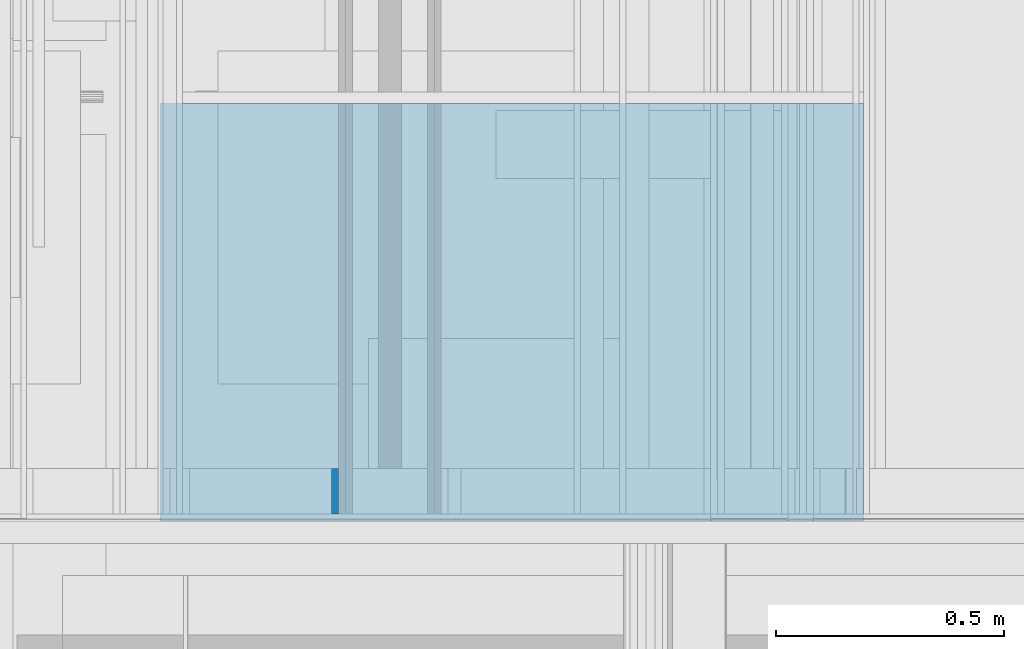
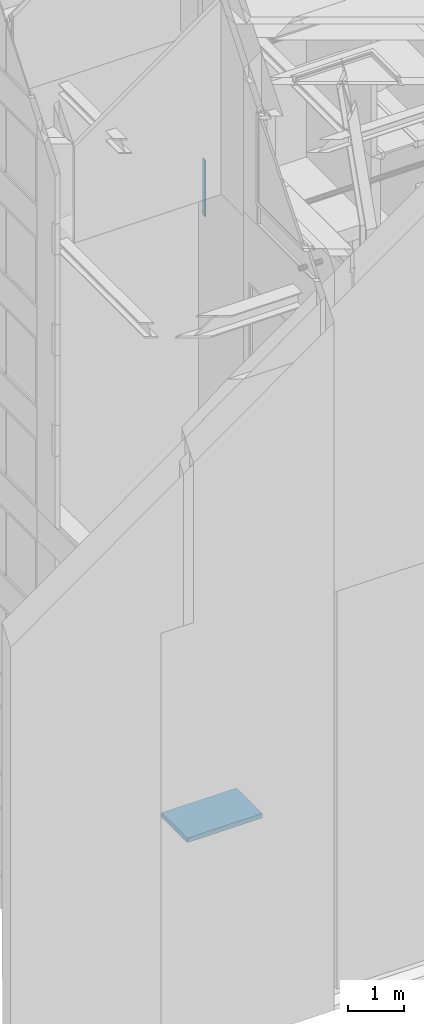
# One storey, part 11 of 583: 2 walls.
"""IFC2X3 building model written with IfcOpenShell, lengths in metres."""

from ifc_helpers import new_model, entity, si_unit, converted_unit, derived_unit, money_unit, direction, frame, frame_2d, origin_with_axes, place, context, subcontext, project, spatial, rectangle, extrude, material, type_object, element, save


model = new_model("IFC2X3")

# Units and contexts
model_context = context("Model", 3, precision=1e-05, world=origin_with_axes(), true_north=direction((0.0, 1.0)))
body_context = subcontext(model_context, "Body", "Model", "MODEL_VIEW", scale=1.0)
ifc_project = project(units=[si_unit("LENGTHUNIT", "METRE"), si_unit("AREAUNIT", "SQUARE_METRE"), si_unit("VOLUMEUNIT", "CUBIC_METRE"), si_unit("ABSORBEDDOSEUNIT", "GRAY"), si_unit("AMOUNTOFSUBSTANCEUNIT", "MOLE"), si_unit("DOSEEQUIVALENTUNIT", "SIEVERT"), si_unit("ELECTRICCAPACITANCEUNIT", "FARAD"), si_unit("ELECTRICCHARGEUNIT", "COULOMB"), si_unit("ELECTRICCONDUCTANCEUNIT", "SIEMENS"), si_unit("ELECTRICCURRENTUNIT", "AMPERE"), si_unit("ELECTRICRESISTANCEUNIT", "OHM"), si_unit("ELECTRICVOLTAGEUNIT", "VOLT"), si_unit("ENERGYUNIT", "JOULE"), si_unit("FORCEUNIT", "NEWTON"), si_unit("FREQUENCYUNIT", "HERTZ"), si_unit("ILLUMINANCEUNIT", "LUX"), si_unit("INDUCTANCEUNIT", "HENRY"), si_unit("LUMINOUSFLUXUNIT", "LUMEN"), si_unit("LUMINOUSINTENSITYUNIT", "CANDELA"), si_unit("MAGNETICFLUXDENSITYUNIT", "TESLA"), si_unit("MAGNETICFLUXUNIT", "WEBER"), si_unit("MASSUNIT", "GRAM"), converted_unit("PLANEANGLEUNIT", "degree", entity("IfcReal", 0.0174532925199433), si_unit("PLANEANGLEUNIT", "RADIAN"), dimensions=[0, 0, 0, 0, 0, 0, 0]), si_unit("POWERUNIT", "WATT"), si_unit("PRESSUREUNIT", "PASCAL"), si_unit("RADIOACTIVITYUNIT", "BECQUEREL"), si_unit("SOLIDANGLEUNIT", "STERADIAN"), si_unit("THERMODYNAMICTEMPERATUREUNIT", "KELVIN"), si_unit("TIMEUNIT", "SECOND"), derived_unit("ACCELERATIONUNIT", [(si_unit("LENGTHUNIT", "METRE"), 1), (si_unit("TIMEUNIT", "SECOND"), -2)]), derived_unit("ANGULARVELOCITYUNIT", [(converted_unit("PLANEANGLEUNIT", "degree", entity("IfcReal", 0.0174532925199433), si_unit("PLANEANGLEUNIT", "RADIAN"), dimensions=[0, 0, 0, 0, 0, 0, 0]), 1), (si_unit("TIMEUNIT", "SECOND"), -1)]), derived_unit("CURVATUREUNIT", [(converted_unit("PLANEANGLEUNIT", "degree", entity("IfcReal", 0.0174532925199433), si_unit("PLANEANGLEUNIT", "RADIAN"), dimensions=[0, 0, 0, 0, 0, 0, 0]), 1), (si_unit("LENGTHUNIT", "METRE"), -1)]), derived_unit("DYNAMICVISCOSITYUNIT", [(si_unit("PRESSUREUNIT", "PASCAL"), 1), (si_unit("TIMEUNIT", "SECOND"), 1)]), derived_unit("HEATFLUXDENSITYUNIT", [(si_unit("POWERUNIT", "WATT"), 1), (si_unit("LENGTHUNIT", "METRE"), -2)]), derived_unit("HEATINGVALUEUNIT", [(si_unit("ENERGYUNIT", "JOULE"), 1), (si_unit("MASSUNIT", "GRAM"), -1)]), derived_unit("INTEGERCOUNTRATEUNIT", [(si_unit("TIMEUNIT", "SECOND"), -1)]), derived_unit("IONCONCENTRATIONUNIT", [(si_unit("MASSUNIT", "GRAM"), 1), (si_unit("VOLUMEUNIT", "CUBIC_METRE"), -1)]), derived_unit("ISOTHERMALMOISTURECAPACITYUNIT", [(si_unit("VOLUMEUNIT", "CUBIC_METRE"), 1), (si_unit("MASSUNIT", "GRAM"), -1)]), derived_unit("KINEMATICVISCOSITYUNIT", [(si_unit("AREAUNIT", "SQUARE_METRE"), 1), (si_unit("TIMEUNIT", "SECOND"), -1)]), derived_unit("LINEARFORCEUNIT", [(si_unit("FORCEUNIT", "NEWTON"), 1), (si_unit("LENGTHUNIT", "METRE"), -1)]), derived_unit("LINEARMOMENTUNIT", [(si_unit("FORCEUNIT", "NEWTON"), 1), (si_unit("LENGTHUNIT", "METRE"), -1)]), derived_unit("LINEARSTIFFNESSUNIT", [(si_unit("FORCEUNIT", "NEWTON"), 1), (si_unit("LENGTHUNIT", "METRE"), -1)]), derived_unit("LINEARVELOCITYUNIT", [(si_unit("LENGTHUNIT", "METRE"), 1), (si_unit("TIMEUNIT", "SECOND"), -1)]), derived_unit("LUMINOUSINTENSITYDISTRIBUTIONUNIT", [(si_unit("LUMINOUSINTENSITYUNIT", "CANDELA"), 1), (si_unit("LUMINOUSFLUXUNIT", "LUMEN"), -1)]), derived_unit("MASSDENSITYUNIT", [(si_unit("MASSUNIT", "GRAM"), 1), (si_unit("VOLUMEUNIT", "CUBIC_METRE"), -1)]), derived_unit("MASSFLOWRATEUNIT", [(si_unit("MASSUNIT", "GRAM"), 1), (si_unit("TIMEUNIT", "SECOND"), -1)]), derived_unit("MASSPERLENGTHUNIT", [(si_unit("MASSUNIT", "GRAM"), 1), (si_unit("LENGTHUNIT", "METRE"), -1)]), derived_unit("MODULUSOFELASTICITYUNIT", [(si_unit("FORCEUNIT", "NEWTON"), 1), (si_unit("AREAUNIT", "SQUARE_METRE"), -1)]), derived_unit("MODULUSOFLINEARSUBGRADEREACTIONUNIT", [(si_unit("FORCEUNIT", "NEWTON"), 1), (si_unit("LENGTHUNIT", "METRE"), -2)]), derived_unit("MODULUSOFROTATIONALSUBGRADEREACTIONUNIT", [(si_unit("FORCEUNIT", "NEWTON"), 1), (si_unit("LENGTHUNIT", "METRE"), 1)]), derived_unit("MODULUSOFSUBGRADEREACTIONUNIT", [(si_unit("FORCEUNIT", "NEWTON"), 1), (si_unit("VOLUMEUNIT", "CUBIC_METRE"), -1)]), derived_unit("MOISTUREDIFFUSIVITYUNIT", [(si_unit("VOLUMEUNIT", "CUBIC_METRE"), 1), (si_unit("TIMEUNIT", "SECOND"), -1)]), derived_unit("MOLECULARWEIGHTUNIT", [(si_unit("MASSUNIT", "GRAM"), 1), (si_unit("AMOUNTOFSUBSTANCEUNIT", "MOLE"), -1)]), derived_unit("PLANARFORCEUNIT", [(si_unit("FORCEUNIT", "NEWTON"), 1), (si_unit("LENGTHUNIT", "METRE"), -2)]), derived_unit("ROTATIONALFREQUENCYUNIT", [(si_unit("TIMEUNIT", "SECOND"), -1)]), derived_unit("ROTATIONALMASSUNIT", [(si_unit("MASSUNIT", "GRAM"), 1), (si_unit("LENGTHUNIT", "METRE"), 2)]), derived_unit("ROTATIONALSTIFFNESSUNIT", [(si_unit("FORCEUNIT", "NEWTON"), 1), (si_unit("LENGTHUNIT", "METRE"), 1), (converted_unit("PLANEANGLEUNIT", "degree", entity("IfcReal", 0.0174532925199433), si_unit("PLANEANGLEUNIT", "RADIAN"), dimensions=[0, 0, 0, 0, 0, 0, 0]), -1)]), derived_unit("SECTIONAREAINTEGRALUNIT", [(si_unit("LENGTHUNIT", "METRE"), 5)]), derived_unit("SECTIONMODULUSUNIT", [(si_unit("LENGTHUNIT", "METRE"), 3)]), derived_unit("SHEARMODULUSUNIT", [(si_unit("FORCEUNIT", "NEWTON"), 1), (si_unit("AREAUNIT", "SQUARE_METRE"), -1)]), derived_unit("SOUNDPOWERUNIT", [(si_unit("ENERGYUNIT", "JOULE"), 1), (si_unit("TIMEUNIT", "SECOND"), -1)]), derived_unit("SPECIFICHEATCAPACITYUNIT", [(si_unit("FORCEUNIT", "NEWTON"), 1), (si_unit("MASSUNIT", "GRAM"), -1), (si_unit("THERMODYNAMICTEMPERATUREUNIT", "KELVIN"), -1)]), derived_unit("TEMPERATUREGRADIENTUNIT", [(si_unit("THERMODYNAMICTEMPERATUREUNIT", "KELVIN"), 1), (si_unit("LENGTHUNIT", "METRE"), -1)]), derived_unit("THERMALADMITTANCEUNIT", [(si_unit("POWERUNIT", "WATT"), 1), (si_unit("AREAUNIT", "SQUARE_METRE"), -1), (si_unit("THERMODYNAMICTEMPERATUREUNIT", "KELVIN"), -1)]), derived_unit("THERMALCONDUCTANCEUNIT", [(si_unit("POWERUNIT", "WATT"), 1), (si_unit("LENGTHUNIT", "METRE"), -1), (si_unit("THERMODYNAMICTEMPERATUREUNIT", "KELVIN"), -1)]), derived_unit("THERMALEXPANSIONCOEFFICIENTUNIT", [(si_unit("THERMODYNAMICTEMPERATUREUNIT", "KELVIN"), -1)]), derived_unit("THERMALRESISTANCEUNIT", [(si_unit("AREAUNIT", "SQUARE_METRE"), 1), (si_unit("POWERUNIT", "WATT"), -1)]), derived_unit("THERMALTRANSMITTANCEUNIT", [(si_unit("POWERUNIT", "WATT"), 1), (si_unit("AREAUNIT", "SQUARE_METRE"), -1), (si_unit("THERMODYNAMICTEMPERATUREUNIT", "KELVIN"), -1)]), derived_unit("TORQUEUNIT", [(si_unit("FORCEUNIT", "NEWTON"), 1), (si_unit("LENGTHUNIT", "METRE"), 1)]), derived_unit("VAPORPERMEABILITYUNIT", [(si_unit("MASSUNIT", "GRAM"), 1), (si_unit("TIMEUNIT", "SECOND"), -1)]), derived_unit("VOLUMETRICFLOWRATEUNIT", [(si_unit("VOLUMEUNIT", "CUBIC_METRE"), 1), (si_unit("TIMEUNIT", "SECOND"), -1)]), derived_unit("WARPINGCONSTANTUNIT", [(si_unit("LENGTHUNIT", "METRE"), 6)]), derived_unit("WARPINGMOMENTUNIT", [(si_unit("FORCEUNIT", "NEWTON"), 1), (si_unit("LENGTHUNIT", "METRE"), 2)]), money_unit("GBP")], contexts=[model_context])

# Site, building, storey
site_placement = place(None, origin_with_axes())
site = spatial("IfcSite", under=ifc_project, at=site_placement, Name="Site", CompositionType="ELEMENT")
building_placement = place(site_placement, origin_with_axes())
building = spatial("IfcBuilding", under=site, at=building_placement, Name="Building01", CompositionType="ELEMENT")
storey_placement = place(building_placement, frame((0.0, 0.0, 20.78), z_axis=(0.0, 0.0, 1.0), x_axis=(1.0, 0.0, 0.0)))
storey = spatial("IfcBuildingStorey", under=building, at=storey_placement, Name="RL", CompositionType="ELEMENT", Elevation=20.78)

# Walls
ifc_material_1 = material(Name="A_BSUK_WallsExternal_Block")
wall_type_1 = type_object("IfcWallType", Name="A-Walls-ExternalBlock", PredefinedType="NOTDEFINED")
wall_1_placement = place(storey_placement, frame((5.315, 5.15, -20.61), z_axis=(0.0, 1.0, 0.0), x_axis=(-1.0, 0.0, 0.0)))
element("IfcWall", 1, at=wall_1_placement, inside=storey, type_object=wall_type_1, material=ifc_material_1, Name="A-Walls-ExternalBlock", ObjectType="A-Walls-ExternalBlock", context=body_context, shape_type="SweptSolid", body=[
    extrude(rectangle(XDim=0.1, YDim=1.54082, at=frame_2d((0.77041, 0.05), x_axis=(0.0, -1.0))), origin_with_axes(), (0.0, 0.0, 1.0), 0.915),
])
ifc_material_2 = material(Name="A_BSUK_Walls_Timber")
wall_type_2 = type_object("IfcWallType", Name="default", PredefinedType="NOTDEFINED")
wall_2_placement = place(storey_placement, frame((4.164428, 5.165, -5.915), z_axis=(0.0, 1.0, 0.0), x_axis=(0.0, 0.0, -1.0)))
element("IfcWall", 2, at=wall_2_placement, inside=storey, type_object=wall_type_2, material=ifc_material_2, Name="default", ObjectType="default", context=body_context, shape_type="SweptSolid", body=[
    extrude(rectangle(XDim=1.2375, YDim=0.015, at=frame_2d((0.61875, 0.0075), x_axis=(-1.0, 0.0))), origin_with_axes(), (0.0, 0.0, 1.0), 0.1),
])

save(model, "model.ifc")
